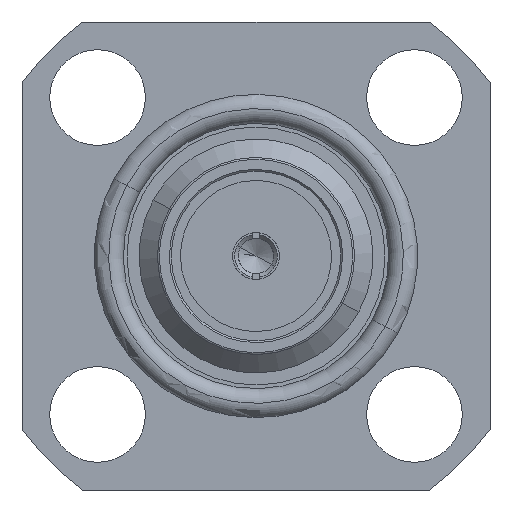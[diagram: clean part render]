
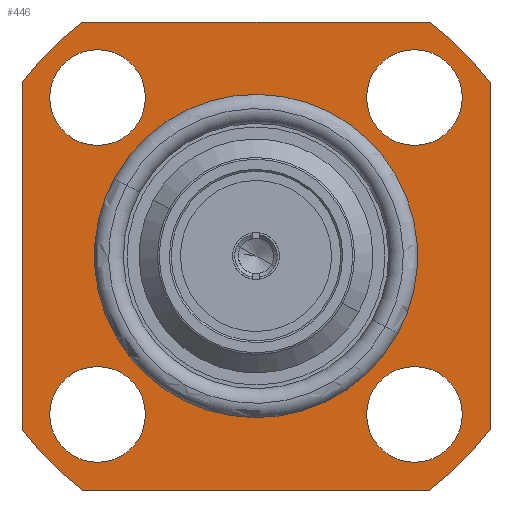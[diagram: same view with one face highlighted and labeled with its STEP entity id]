
A CAD part, left-side view. The second image highlights one B-rep face of the part: STEP entity #446.
In plain terms, the highlighted planar face has unit normal (-1, 0, 0).
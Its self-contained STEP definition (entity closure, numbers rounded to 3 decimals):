
#57=CARTESIAN_POINT('Axis2P3D Location',(12.7,-4.3,-4.3)) ;
#61=CARTESIAN_POINT('Vertex',(12.7,-3.,-4.3)) ;
#63=CARTESIAN_POINT('Vertex',(12.7,-5.6,-4.3)) ;
#92=CARTESIAN_POINT('Axis2P3D Location',(12.7,-4.3,-4.3)) ;
#257=CARTESIAN_POINT('Axis2P3D Location',(12.7,-3.5,0.)) ;
#262=CARTESIAN_POINT('Line Origine',(12.7,0.,6.35)) ;
#266=CARTESIAN_POINT('Vertex',(12.7,4.7,6.35)) ;
#268=CARTESIAN_POINT('Vertex',(12.7,-4.7,6.35)) ;
#271=CARTESIAN_POINT('Axis2P3D Location',(12.7,0.,0.)) ;
#275=CARTESIAN_POINT('Vertex',(12.7,6.35,4.7)) ;
#278=CARTESIAN_POINT('Line Origine',(12.7,6.35,0.)) ;
#282=CARTESIAN_POINT('Vertex',(12.7,6.35,-4.7)) ;
#285=CARTESIAN_POINT('Axis2P3D Location',(12.7,0.,0.)) ;
#289=CARTESIAN_POINT('Vertex',(12.7,4.7,-6.35)) ;
#292=CARTESIAN_POINT('Line Origine',(12.7,0.,-6.35)) ;
#296=CARTESIAN_POINT('Vertex',(12.7,-4.7,-6.35)) ;
#299=CARTESIAN_POINT('Axis2P3D Location',(12.7,0.,0.)) ;
#303=CARTESIAN_POINT('Vertex',(12.7,-6.35,-4.7)) ;
#306=CARTESIAN_POINT('Line Origine',(12.7,-6.35,0.)) ;
#310=CARTESIAN_POINT('Vertex',(12.7,-6.35,4.7)) ;
#313=CARTESIAN_POINT('Axis2P3D Location',(12.7,0.,0.)) ;
#329=CARTESIAN_POINT('Control Point',(12.7,-3.849,-2.103)) ;
#330=CARTESIAN_POINT('Control Point',(12.7,-3.651,-2.465)) ;
#331=CARTESIAN_POINT('Control Point',(12.7,-3.411,-2.804)) ;
#332=CARTESIAN_POINT('Control Point',(12.7,-3.131,-3.113)) ;
#333=CARTESIAN_POINT('Control Point',(12.7,-2.505,-3.66)) ;
#334=CARTESIAN_POINT('Control Point',(12.7,-1.768,-4.046)) ;
#335=CARTESIAN_POINT('Control Point',(12.7,-1.379,-4.195)) ;
#336=CARTESIAN_POINT('Control Point',(12.7,-0.572,-4.398)) ;
#337=CARTESIAN_POINT('Control Point',(12.7,0.26,-4.408)) ;
#338=CARTESIAN_POINT('Control Point',(12.7,0.675,-4.363)) ;
#339=CARTESIAN_POINT('Control Point',(12.7,1.486,-4.178)) ;
#340=CARTESIAN_POINT('Control Point',(12.7,2.231,-3.81)) ;
#341=CARTESIAN_POINT('Control Point',(12.7,2.581,-3.582)) ;
#342=CARTESIAN_POINT('Control Point',(12.7,3.22,-3.049)) ;
#343=CARTESIAN_POINT('Control Point',(12.7,3.717,-2.383)) ;
#344=CARTESIAN_POINT('Control Point',(12.7,3.925,-2.021)) ;
#345=CARTESIAN_POINT('Control Point',(12.7,4.253,-1.257)) ;
#346=CARTESIAN_POINT('Control Point',(12.7,4.394,-0.437)) ;
#347=CARTESIAN_POINT('Control Point',(12.7,4.415,-0.02)) ;
#348=CARTESIAN_POINT('Control Point',(12.7,4.369,0.674)) ;
#349=CARTESIAN_POINT('Control Point',(12.7,4.189,1.343)) ;
#350=CARTESIAN_POINT('Control Point',(12.7,4.096,1.605)) ;
#351=CARTESIAN_POINT('Control Point',(12.7,3.982,1.859)) ;
#352=CARTESIAN_POINT('Control Point',(12.7,3.849,2.103)) ;
#353=CARTESIAN_POINT('Vertex',(12.7,-3.849,-2.103)) ;
#355=CARTESIAN_POINT('Vertex',(12.7,3.849,2.103)) ;
#359=CARTESIAN_POINT('Control Point',(12.7,3.849,2.103)) ;
#360=CARTESIAN_POINT('Control Point',(12.7,3.651,2.465)) ;
#361=CARTESIAN_POINT('Control Point',(12.7,3.411,2.804)) ;
#362=CARTESIAN_POINT('Control Point',(12.7,3.131,3.113)) ;
#363=CARTESIAN_POINT('Control Point',(12.7,2.505,3.66)) ;
#364=CARTESIAN_POINT('Control Point',(12.7,1.768,4.046)) ;
#365=CARTESIAN_POINT('Control Point',(12.7,1.379,4.195)) ;
#366=CARTESIAN_POINT('Control Point',(12.7,0.572,4.398)) ;
#367=CARTESIAN_POINT('Control Point',(12.7,-0.26,4.408)) ;
#368=CARTESIAN_POINT('Control Point',(12.7,-0.675,4.363)) ;
#369=CARTESIAN_POINT('Control Point',(12.7,-1.486,4.178)) ;
#370=CARTESIAN_POINT('Control Point',(12.7,-2.231,3.81)) ;
#371=CARTESIAN_POINT('Control Point',(12.7,-2.581,3.582)) ;
#372=CARTESIAN_POINT('Control Point',(12.7,-3.22,3.049)) ;
#373=CARTESIAN_POINT('Control Point',(12.7,-3.717,2.383)) ;
#374=CARTESIAN_POINT('Control Point',(12.7,-3.925,2.021)) ;
#375=CARTESIAN_POINT('Control Point',(12.7,-4.253,1.257)) ;
#376=CARTESIAN_POINT('Control Point',(12.7,-4.394,0.437)) ;
#377=CARTESIAN_POINT('Control Point',(12.7,-4.415,0.02)) ;
#378=CARTESIAN_POINT('Control Point',(12.7,-4.369,-0.674)) ;
#379=CARTESIAN_POINT('Control Point',(12.7,-4.189,-1.343)) ;
#380=CARTESIAN_POINT('Control Point',(12.7,-4.096,-1.605)) ;
#381=CARTESIAN_POINT('Control Point',(12.7,-3.982,-1.859)) ;
#382=CARTESIAN_POINT('Control Point',(12.7,-3.849,-2.103)) ;
#392=CARTESIAN_POINT('Axis2P3D Location',(12.7,4.3,-4.3)) ;
#396=CARTESIAN_POINT('Vertex',(12.7,3.,-4.3)) ;
#398=CARTESIAN_POINT('Vertex',(12.7,5.6,-4.3)) ;
#401=CARTESIAN_POINT('Axis2P3D Location',(12.7,4.3,-4.3)) ;
#410=CARTESIAN_POINT('Axis2P3D Location',(12.7,-4.3,4.3)) ;
#414=CARTESIAN_POINT('Vertex',(12.7,-3.,4.3)) ;
#416=CARTESIAN_POINT('Vertex',(12.7,-5.6,4.3)) ;
#419=CARTESIAN_POINT('Axis2P3D Location',(12.7,-4.3,4.3)) ;
#428=CARTESIAN_POINT('Axis2P3D Location',(12.7,4.3,4.3)) ;
#432=CARTESIAN_POINT('Vertex',(12.7,3.,4.3)) ;
#434=CARTESIAN_POINT('Vertex',(12.7,5.6,4.3)) ;
#437=CARTESIAN_POINT('Axis2P3D Location',(12.7,4.3,4.3)) ;
#58=DIRECTION('Axis2P3D Direction',(1.,0.,0.)) ;
#93=DIRECTION('Axis2P3D Direction',(1.,0.,0.)) ;
#258=DIRECTION('Axis2P3D Direction',(1.,0.,0.)) ;
#259=DIRECTION('Axis2P3D XDirection',(0.,1.,0.)) ;
#263=DIRECTION('Vector Direction',(0.,1.,0.)) ;
#272=DIRECTION('Axis2P3D Direction',(1.,0.,0.)) ;
#279=DIRECTION('Vector Direction',(0.,0.,1.)) ;
#286=DIRECTION('Axis2P3D Direction',(1.,0.,0.)) ;
#293=DIRECTION('Vector Direction',(0.,-1.,0.)) ;
#300=DIRECTION('Axis2P3D Direction',(1.,0.,0.)) ;
#307=DIRECTION('Vector Direction',(0.,0.,-1.)) ;
#314=DIRECTION('Axis2P3D Direction',(1.,0.,0.)) ;
#393=DIRECTION('Axis2P3D Direction',(1.,0.,0.)) ;
#402=DIRECTION('Axis2P3D Direction',(1.,0.,0.)) ;
#411=DIRECTION('Axis2P3D Direction',(1.,0.,0.)) ;
#420=DIRECTION('Axis2P3D Direction',(1.,0.,0.)) ;
#429=DIRECTION('Axis2P3D Direction',(1.,0.,0.)) ;
#438=DIRECTION('Axis2P3D Direction',(1.,0.,0.)) ;
#59=AXIS2_PLACEMENT_3D('Circle Axis2P3D',#57,#58,$) ;
#94=AXIS2_PLACEMENT_3D('Circle Axis2P3D',#92,#93,$) ;
#260=AXIS2_PLACEMENT_3D('Plane Axis2P3D',#257,#258,#259) ;
#273=AXIS2_PLACEMENT_3D('Circle Axis2P3D',#271,#272,$) ;
#287=AXIS2_PLACEMENT_3D('Circle Axis2P3D',#285,#286,$) ;
#301=AXIS2_PLACEMENT_3D('Circle Axis2P3D',#299,#300,$) ;
#315=AXIS2_PLACEMENT_3D('Circle Axis2P3D',#313,#314,$) ;
#394=AXIS2_PLACEMENT_3D('Circle Axis2P3D',#392,#393,$) ;
#403=AXIS2_PLACEMENT_3D('Circle Axis2P3D',#401,#402,$) ;
#412=AXIS2_PLACEMENT_3D('Circle Axis2P3D',#410,#411,$) ;
#421=AXIS2_PLACEMENT_3D('Circle Axis2P3D',#419,#420,$) ;
#430=AXIS2_PLACEMENT_3D('Circle Axis2P3D',#428,#429,$) ;
#439=AXIS2_PLACEMENT_3D('Circle Axis2P3D',#437,#438,$) ;
#319=ORIENTED_EDGE('',*,*,#270,.F.) ;
#320=ORIENTED_EDGE('',*,*,#277,.F.) ;
#321=ORIENTED_EDGE('',*,*,#284,.F.) ;
#322=ORIENTED_EDGE('',*,*,#291,.F.) ;
#323=ORIENTED_EDGE('',*,*,#298,.F.) ;
#324=ORIENTED_EDGE('',*,*,#305,.F.) ;
#325=ORIENTED_EDGE('',*,*,#312,.F.) ;
#326=ORIENTED_EDGE('',*,*,#317,.F.) ;
#385=ORIENTED_EDGE('',*,*,#357,.T.) ;
#386=ORIENTED_EDGE('',*,*,#383,.T.) ;
#389=ORIENTED_EDGE('',*,*,#65,.T.) ;
#390=ORIENTED_EDGE('',*,*,#96,.T.) ;
#407=ORIENTED_EDGE('',*,*,#400,.T.) ;
#408=ORIENTED_EDGE('',*,*,#405,.T.) ;
#425=ORIENTED_EDGE('',*,*,#418,.T.) ;
#426=ORIENTED_EDGE('',*,*,#423,.T.) ;
#443=ORIENTED_EDGE('',*,*,#436,.T.) ;
#444=ORIENTED_EDGE('',*,*,#441,.T.) ;
#387=FACE_BOUND('',#384,.T.) ;
#391=FACE_BOUND('',#388,.T.) ;
#409=FACE_BOUND('',#406,.T.) ;
#427=FACE_BOUND('',#424,.T.) ;
#445=FACE_BOUND('',#442,.T.) ;
#264=VECTOR('Line Direction',#263,1.) ;
#280=VECTOR('Line Direction',#279,1.) ;
#294=VECTOR('Line Direction',#293,1.) ;
#308=VECTOR('Line Direction',#307,1.) ;
#446=ADVANCED_FACE('\X2\96F64EF651E04F554F53\X0\',(#327,#387,#391,#409,#427,#445),#261,.F.) ;
#328=B_SPLINE_CURVE_WITH_KNOTS('',5,(#329,#330,#331,#332,#333,#334,#335,#336,#337,#338,#339,#340,#341,#342,#343,#344,#345,#346,#347,#348,#349,#350,#351,#352),.UNSPECIFIED.,.F.,.U.,(6,3,3,3,3,3,3,6),(0.,2.793,5.589,8.384,11.179,13.975,16.77,18.648),.UNSPECIFIED.) ;
#358=B_SPLINE_CURVE_WITH_KNOTS('',5,(#359,#360,#361,#362,#363,#364,#365,#366,#367,#368,#369,#370,#371,#372,#373,#374,#375,#376,#377,#378,#379,#380,#381,#382),.UNSPECIFIED.,.F.,.U.,(6,3,3,3,3,3,3,6),(0.,2.793,5.589,8.384,11.179,13.975,16.77,18.648),.UNSPECIFIED.) ;
#60=CIRCLE('generated circle',#59,1.3) ;
#95=CIRCLE('generated circle',#94,1.3) ;
#274=CIRCLE('generated circle',#273,7.9) ;
#288=CIRCLE('generated circle',#287,7.9) ;
#302=CIRCLE('generated circle',#301,7.9) ;
#316=CIRCLE('generated circle',#315,7.9) ;
#395=CIRCLE('generated circle',#394,1.3) ;
#404=CIRCLE('generated circle',#403,1.3) ;
#413=CIRCLE('generated circle',#412,1.3) ;
#422=CIRCLE('generated circle',#421,1.3) ;
#431=CIRCLE('generated circle',#430,1.3) ;
#440=CIRCLE('generated circle',#439,1.3) ;
#65=EDGE_CURVE('',#62,#64,#60,.T.) ;
#96=EDGE_CURVE('',#64,#62,#95,.T.) ;
#270=EDGE_CURVE('',#267,#269,#265,.F.) ;
#277=EDGE_CURVE('',#276,#267,#274,.T.) ;
#284=EDGE_CURVE('',#283,#276,#281,.T.) ;
#291=EDGE_CURVE('',#290,#283,#288,.T.) ;
#298=EDGE_CURVE('',#297,#290,#295,.F.) ;
#305=EDGE_CURVE('',#304,#297,#302,.T.) ;
#312=EDGE_CURVE('',#311,#304,#309,.T.) ;
#317=EDGE_CURVE('',#269,#311,#316,.T.) ;
#357=EDGE_CURVE('',#354,#356,#328,.T.) ;
#383=EDGE_CURVE('',#356,#354,#358,.T.) ;
#400=EDGE_CURVE('',#397,#399,#395,.T.) ;
#405=EDGE_CURVE('',#399,#397,#404,.T.) ;
#418=EDGE_CURVE('',#415,#417,#413,.T.) ;
#423=EDGE_CURVE('',#417,#415,#422,.T.) ;
#436=EDGE_CURVE('',#433,#435,#431,.T.) ;
#441=EDGE_CURVE('',#435,#433,#440,.T.) ;
#318=EDGE_LOOP('',(#319,#320,#321,#322,#323,#324,#325,#326)) ;
#384=EDGE_LOOP('',(#385,#386)) ;
#388=EDGE_LOOP('',(#389,#390)) ;
#406=EDGE_LOOP('',(#407,#408)) ;
#424=EDGE_LOOP('',(#425,#426)) ;
#442=EDGE_LOOP('',(#443,#444)) ;
#327=FACE_OUTER_BOUND('',#318,.T.) ;
#265=LINE('Line',#262,#264) ;
#281=LINE('Line',#278,#280) ;
#295=LINE('Line',#292,#294) ;
#309=LINE('Line',#306,#308) ;
#261=PLANE('Plane',#260) ;
#62=VERTEX_POINT('',#61) ;
#64=VERTEX_POINT('',#63) ;
#267=VERTEX_POINT('',#266) ;
#269=VERTEX_POINT('',#268) ;
#276=VERTEX_POINT('',#275) ;
#283=VERTEX_POINT('',#282) ;
#290=VERTEX_POINT('',#289) ;
#297=VERTEX_POINT('',#296) ;
#304=VERTEX_POINT('',#303) ;
#311=VERTEX_POINT('',#310) ;
#354=VERTEX_POINT('',#353) ;
#356=VERTEX_POINT('',#355) ;
#397=VERTEX_POINT('',#396) ;
#399=VERTEX_POINT('',#398) ;
#415=VERTEX_POINT('',#414) ;
#417=VERTEX_POINT('',#416) ;
#433=VERTEX_POINT('',#432) ;
#435=VERTEX_POINT('',#434) ;
